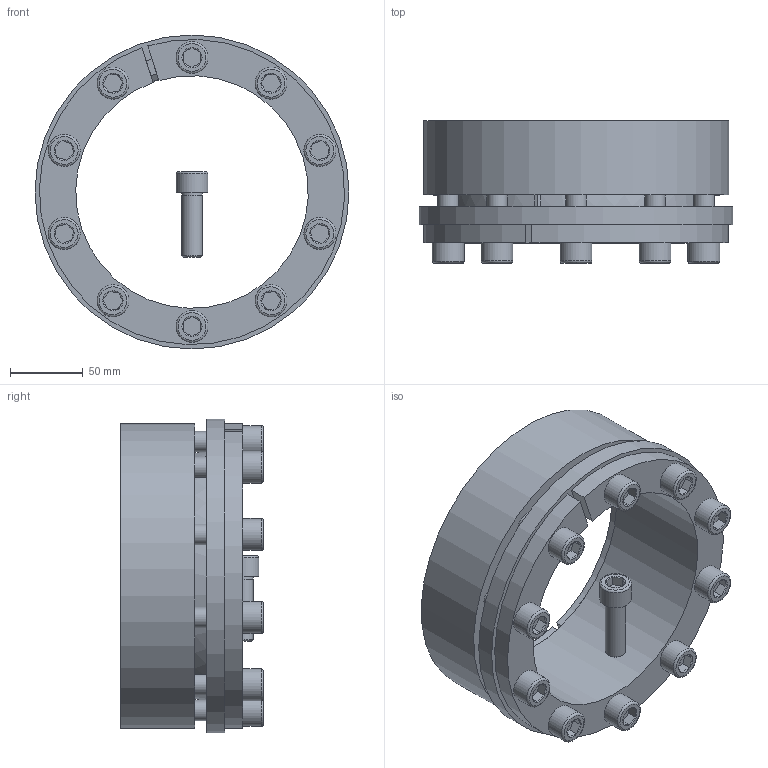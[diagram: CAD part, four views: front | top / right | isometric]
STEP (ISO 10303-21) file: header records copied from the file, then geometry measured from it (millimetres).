
FILE_DESCRIPTION( ( 'Unknown' ), '1' );
FILE_NAME( 'C:/Dokumente und Einstellungen/Sven/Desktop/homepage/cad - homepage/KBS71/KBS 71 - 160 x 210.stp', 'Unknown', ( 'Unknown' ), ( 'Unknown' ), 'XStep 1.0', 'Unknown', ' ' );
FILE_SCHEMA( ( 'automotive_design' ) );
Length unit declared in the file: millimetre
Products named in the file (3): Assem1; KBS 71 - 160 x 210; ISO EN DIN 4762 M14x45
Bounding box: 216 x 98 x 216 mm (x, y, z)
Volume: 2173227.3 mm3; surface area: 412720.8 mm2
Topology: 13 solids, 13 shells, 363 faces, 781 edges, 466 vertices
Faces by surface type: plane 164, cylinder 92, cone 85, torus 22
Full cylindrical faces by diameter (mm): 12 x11, 14 x62, 22 x11, 216 x2
Entity records: 2522 total; most frequent: CARTESIAN_POINT 401, DIRECTION 384, ORIENTED_EDGE 292, AXIS2_PLACEMENT_3D 167, EDGE_CURVE 146, EDGE_LOOP 136, VERTEX_POINT 104, FACE_OUTER_BOUND 96
